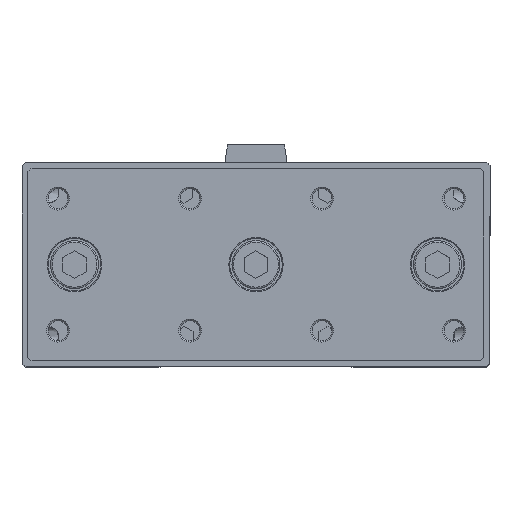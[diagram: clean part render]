
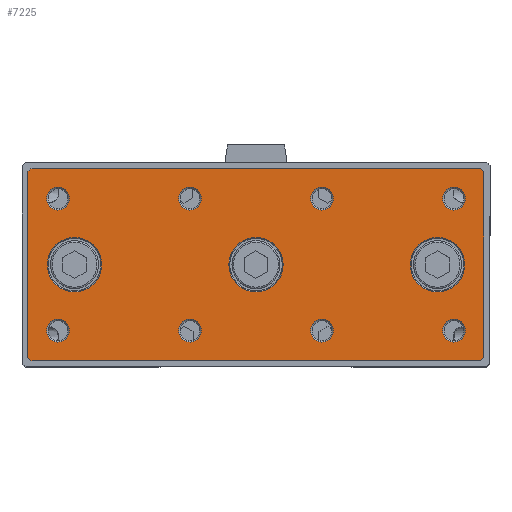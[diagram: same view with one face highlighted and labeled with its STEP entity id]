
A CAD part, top view. The second image highlights one B-rep face of the part: STEP entity #7225.
In plain terms, the highlighted planar face has unit normal (0, 0, 1).
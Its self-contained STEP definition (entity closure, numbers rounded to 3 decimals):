
#6983=CARTESIAN_POINT('',(-82.057,-30.206,111.6));
#6984=VERTEX_POINT('',#6983);
#6985=CARTESIAN_POINT('',(-83.057,-29.206,111.6));
#6986=VERTEX_POINT('',#6985);
#6987=CARTESIAN_POINT('',(-82.057,-30.206,111.6));
#6988=DIRECTION('',(-0.707,0.707,0.0));
#6989=VECTOR('',#6988,1.414);
#6990=LINE('',#6987,#6989);
#6991=EDGE_CURVE('',#6984,#6986,#6990,.T.);
#7024=CARTESIAN_POINT('',(-83.057,32.794,111.6));
#7025=VERTEX_POINT('',#7024);
#7026=CARTESIAN_POINT('',(-83.057,-29.206,111.6));
#7027=DIRECTION('',(0.0,1.0,0.0));
#7028=VECTOR('',#7027,62.);
#7029=LINE('',#7026,#7028);
#7030=EDGE_CURVE('',#6986,#7025,#7029,.T.);
#7049=CARTESIAN_POINT('',(-7.057,1.794,111.6));
#7050=DIRECTION('',(0.0,0.0,1.0));
#7051=DIRECTION('',(1.0,0.0,0.0));
#7052=AXIS2_PLACEMENT_3D('',#7049,#7050,#7051);
#7053=PLANE('',#7052);
#7054=ORIENTED_EDGE('',*,*,#6991,.F.);
#7055=CARTESIAN_POINT('',(67.943,-30.206,111.6));
#7056=VERTEX_POINT('',#7055);
#7057=CARTESIAN_POINT('',(67.943,-30.206,111.6));
#7058=DIRECTION('',(-1.0,0.0,0.0));
#7059=VECTOR('',#7058,150.0);
#7060=LINE('',#7057,#7059);
#7061=EDGE_CURVE('',#7056,#6984,#7060,.T.);
#7062=ORIENTED_EDGE('',*,*,#7061,.F.);
#7063=CARTESIAN_POINT('',(68.943,-29.206,111.6));
#7064=VERTEX_POINT('',#7063);
#7065=CARTESIAN_POINT('',(68.943,-29.206,111.6));
#7066=DIRECTION('',(-0.707,-0.707,0.0));
#7067=VECTOR('',#7066,1.414);
#7068=LINE('',#7065,#7067);
#7069=EDGE_CURVE('',#7064,#7056,#7068,.T.);
#7070=ORIENTED_EDGE('',*,*,#7069,.F.);
#7071=CARTESIAN_POINT('',(68.943,32.794,111.6));
#7072=VERTEX_POINT('',#7071);
#7073=CARTESIAN_POINT('',(68.943,32.794,111.6));
#7074=DIRECTION('',(0.0,-1.0,0.0));
#7075=VECTOR('',#7074,62.);
#7076=LINE('',#7073,#7075);
#7077=EDGE_CURVE('',#7072,#7064,#7076,.T.);
#7078=ORIENTED_EDGE('',*,*,#7077,.F.);
#7079=CARTESIAN_POINT('',(67.943,33.794,111.6));
#7080=VERTEX_POINT('',#7079);
#7081=CARTESIAN_POINT('',(67.943,33.794,111.6));
#7082=DIRECTION('',(0.707,-0.707,0.0));
#7083=VECTOR('',#7082,1.414);
#7084=LINE('',#7081,#7083);
#7085=EDGE_CURVE('',#7080,#7072,#7084,.T.);
#7086=ORIENTED_EDGE('',*,*,#7085,.F.);
#7087=CARTESIAN_POINT('',(-82.057,33.794,111.6));
#7088=VERTEX_POINT('',#7087);
#7089=CARTESIAN_POINT('',(-82.057,33.794,111.6));
#7090=DIRECTION('',(1.0,0.0,0.0));
#7091=VECTOR('',#7090,150.);
#7092=LINE('',#7089,#7091);
#7093=EDGE_CURVE('',#7088,#7080,#7092,.T.);
#7094=ORIENTED_EDGE('',*,*,#7093,.F.);
#7095=CARTESIAN_POINT('',(-83.057,32.794,111.6));
#7096=DIRECTION('',(0.707,0.707,0.0));
#7097=VECTOR('',#7096,1.414);
#7098=LINE('',#7095,#7097);
#7099=EDGE_CURVE('',#7025,#7088,#7098,.T.);
#7100=ORIENTED_EDGE('',*,*,#7099,.F.);
#7101=ORIENTED_EDGE('',*,*,#7030,.F.);
#7102=EDGE_LOOP('',(#7054,#7062,#7070,#7078,#7086,#7094,#7100,#7101));
#7103=FACE_OUTER_BOUND('',#7102,.T.);
#7104=CARTESIAN_POINT('',(-58.507,1.794,111.6));
#7105=VERTEX_POINT('',#7104);
#7106=CARTESIAN_POINT('',(-67.557,1.794,111.6));
#7107=DIRECTION('',(0.0,0.0,1.0));
#7108=DIRECTION('',(-1.0,0.0,0.0));
#7109=AXIS2_PLACEMENT_3D('',#7106,#7107,#7108);
#7110=CIRCLE('',#7109,9.05);
#7111=EDGE_CURVE('',#7105,#7105,#7110,.T.);
#7112=ORIENTED_EDGE('',*,*,#7111,.F.);
#7113=EDGE_LOOP('',(#7112));
#7114=FACE_BOUND('',#7113,.T.);
#7115=CARTESIAN_POINT('',(62.766,-20.206,111.6));
#7116=VERTEX_POINT('',#7115);
#7117=CARTESIAN_POINT('',(58.943,-20.206,111.6));
#7118=DIRECTION('',(0.0,0.0,1.0));
#7119=DIRECTION('',(-1.0,0.0,0.0));
#7120=AXIS2_PLACEMENT_3D('',#7117,#7118,#7119);
#7121=CIRCLE('',#7120,3.823);
#7122=EDGE_CURVE('',#7116,#7116,#7121,.T.);
#7123=ORIENTED_EDGE('',*,*,#7122,.F.);
#7124=EDGE_LOOP('',(#7123));
#7125=FACE_BOUND('',#7124,.T.);
#7126=CARTESIAN_POINT('',(-69.234,-20.206,111.6));
#7127=VERTEX_POINT('',#7126);
#7128=CARTESIAN_POINT('',(-73.057,-20.206,111.6));
#7129=DIRECTION('',(0.0,0.0,1.0));
#7130=DIRECTION('',(-1.0,0.0,0.0));
#7131=AXIS2_PLACEMENT_3D('',#7128,#7129,#7130);
#7132=CIRCLE('',#7131,3.823);
#7133=EDGE_CURVE('',#7127,#7127,#7132,.T.);
#7134=ORIENTED_EDGE('',*,*,#7133,.F.);
#7135=EDGE_LOOP('',(#7134));
#7136=FACE_BOUND('',#7135,.T.);
#7137=CARTESIAN_POINT('',(62.766,23.794,111.6));
#7138=VERTEX_POINT('',#7137);
#7139=CARTESIAN_POINT('',(58.943,23.794,111.6));
#7140=DIRECTION('',(0.0,0.0,1.0));
#7141=DIRECTION('',(-1.0,0.0,0.0));
#7142=AXIS2_PLACEMENT_3D('',#7139,#7140,#7141);
#7143=CIRCLE('',#7142,3.823);
#7144=EDGE_CURVE('',#7138,#7138,#7143,.T.);
#7145=ORIENTED_EDGE('',*,*,#7144,.F.);
#7146=EDGE_LOOP('',(#7145));
#7147=FACE_BOUND('',#7146,.T.);
#7148=CARTESIAN_POINT('',(-69.234,23.794,111.6));
#7149=VERTEX_POINT('',#7148);
#7150=CARTESIAN_POINT('',(-73.057,23.794,111.6));
#7151=DIRECTION('',(0.0,0.0,1.0));
#7152=DIRECTION('',(-1.0,0.0,0.0));
#7153=AXIS2_PLACEMENT_3D('',#7150,#7151,#7152);
#7154=CIRCLE('',#7153,3.823);
#7155=EDGE_CURVE('',#7149,#7149,#7154,.T.);
#7156=ORIENTED_EDGE('',*,*,#7155,.F.);
#7157=EDGE_LOOP('',(#7156));
#7158=FACE_BOUND('',#7157,.T.);
#7159=CARTESIAN_POINT('',(18.766,-20.206,111.6));
#7160=VERTEX_POINT('',#7159);
#7161=CARTESIAN_POINT('',(14.943,-20.206,111.6));
#7162=DIRECTION('',(0.0,0.0,1.0));
#7163=DIRECTION('',(-1.0,0.0,0.0));
#7164=AXIS2_PLACEMENT_3D('',#7161,#7162,#7163);
#7165=CIRCLE('',#7164,3.824);
#7166=EDGE_CURVE('',#7160,#7160,#7165,.T.);
#7167=ORIENTED_EDGE('',*,*,#7166,.F.);
#7168=EDGE_LOOP('',(#7167));
#7169=FACE_BOUND('',#7168,.T.);
#7170=CARTESIAN_POINT('',(-25.234,-20.206,111.6));
#7171=VERTEX_POINT('',#7170);
#7172=CARTESIAN_POINT('',(-29.057,-20.206,111.6));
#7173=DIRECTION('',(0.0,0.0,1.0));
#7174=DIRECTION('',(-1.0,0.0,0.0));
#7175=AXIS2_PLACEMENT_3D('',#7172,#7173,#7174);
#7176=CIRCLE('',#7175,3.823);
#7177=EDGE_CURVE('',#7171,#7171,#7176,.T.);
#7178=ORIENTED_EDGE('',*,*,#7177,.F.);
#7179=EDGE_LOOP('',(#7178));
#7180=FACE_BOUND('',#7179,.T.);
#7181=CARTESIAN_POINT('',(18.766,23.794,111.6));
#7182=VERTEX_POINT('',#7181);
#7183=CARTESIAN_POINT('',(14.943,23.794,111.6));
#7184=DIRECTION('',(0.0,0.0,1.0));
#7185=DIRECTION('',(-1.0,0.0,0.0));
#7186=AXIS2_PLACEMENT_3D('',#7183,#7184,#7185);
#7187=CIRCLE('',#7186,3.824);
#7188=EDGE_CURVE('',#7182,#7182,#7187,.T.);
#7189=ORIENTED_EDGE('',*,*,#7188,.F.);
#7190=EDGE_LOOP('',(#7189));
#7191=FACE_BOUND('',#7190,.T.);
#7192=CARTESIAN_POINT('',(-25.234,23.794,111.6));
#7193=VERTEX_POINT('',#7192);
#7194=CARTESIAN_POINT('',(-29.057,23.794,111.6));
#7195=DIRECTION('',(0.0,0.0,1.0));
#7196=DIRECTION('',(-1.0,0.0,0.0));
#7197=AXIS2_PLACEMENT_3D('',#7194,#7195,#7196);
#7198=CIRCLE('',#7197,3.823);
#7199=EDGE_CURVE('',#7193,#7193,#7198,.T.);
#7200=ORIENTED_EDGE('',*,*,#7199,.F.);
#7201=EDGE_LOOP('',(#7200));
#7202=FACE_BOUND('',#7201,.T.);
#7203=CARTESIAN_POINT('',(62.493,1.794,111.6));
#7204=VERTEX_POINT('',#7203);
#7205=CARTESIAN_POINT('',(53.443,1.794,111.6));
#7206=DIRECTION('',(0.0,0.0,1.0));
#7207=DIRECTION('',(-1.0,0.0,0.0));
#7208=AXIS2_PLACEMENT_3D('',#7205,#7206,#7207);
#7209=CIRCLE('',#7208,9.05);
#7210=EDGE_CURVE('',#7204,#7204,#7209,.T.);
#7211=ORIENTED_EDGE('',*,*,#7210,.F.);
#7212=EDGE_LOOP('',(#7211));
#7213=FACE_BOUND('',#7212,.T.);
#7214=CARTESIAN_POINT('',(1.993,1.794,111.6));
#7215=VERTEX_POINT('',#7214);
#7216=CARTESIAN_POINT('',(-7.057,1.794,111.6));
#7217=DIRECTION('',(0.0,0.0,1.0));
#7218=DIRECTION('',(-1.0,0.0,0.0));
#7219=AXIS2_PLACEMENT_3D('',#7216,#7217,#7218);
#7220=CIRCLE('',#7219,9.05);
#7221=EDGE_CURVE('',#7215,#7215,#7220,.T.);
#7222=ORIENTED_EDGE('',*,*,#7221,.F.);
#7223=EDGE_LOOP('',(#7222));
#7224=FACE_BOUND('',#7223,.T.);
#7225=ADVANCED_FACE('',(#7103,#7114,#7125,#7136,#7147,#7158,#7169,#7180,#7191,#7202,#7213,#7224),#7053,.T.);
